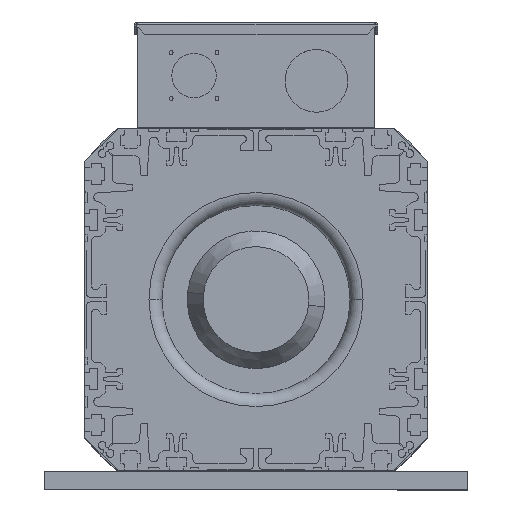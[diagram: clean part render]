
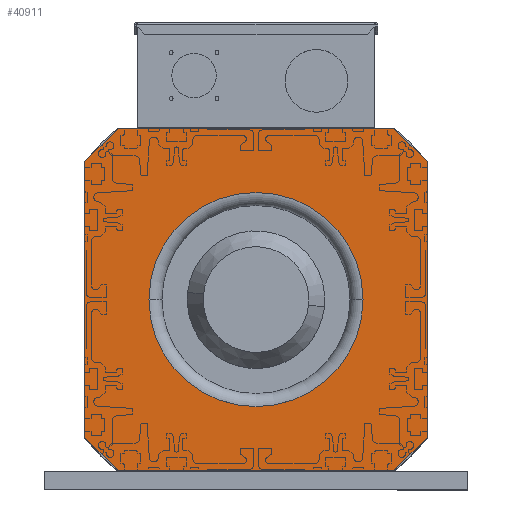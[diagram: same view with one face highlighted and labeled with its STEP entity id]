
A CAD part, top view. The second image highlights one B-rep face of the part: STEP entity #40911.
In plain terms, the highlighted planar face has unit normal (0, 0, 1) as drawn and (-1, 0, 0) by its records, which use the part's own axes.
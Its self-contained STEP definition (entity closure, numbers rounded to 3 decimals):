
#1656 = CARTESIAN_POINT ( 'NONE',  ( 0., 112., 90. ) ) ;
#2002 = DIRECTION ( 'NONE',  ( 1., 0., 0. ) ) ;
#2411 = ORIENTED_EDGE ( 'NONE', *, *, #13039, .F. ) ;
#3742 = DIRECTION ( 'NONE',  ( 0., -0.707, -0.707 ) ) ;
#3843 = CARTESIAN_POINT ( 'NONE',  ( 0., 155., 112. ) ) ;
#6237 = VERTEX_POINT ( 'NONE', #54505 ) ;
#6661 = LINE ( 'NONE', #33599, #35673 ) ;
#7082 = DIRECTION ( 'NONE',  ( 0., 0.707, -0.707 ) ) ;
#7123 = LINE ( 'NONE', #47308, #19832 ) ;
#7255 = EDGE_CURVE ( 'NONE', #29634, #80907, #41921, .T. ) ;
#8041 = EDGE_CURVE ( 'NONE', #41250, #74577, #6661, .T. ) ;
#8053 = ORIENTED_EDGE ( 'NONE', *, *, #66468, .F. ) ;
#8428 = EDGE_LOOP ( 'NONE', ( #60539, #41059, #8544, #16272, #72964, #77427, #2411, #53216 ) ) ;
#8544 = ORIENTED_EDGE ( 'NONE', *, *, #7255, .F. ) ;
#8805 = DIRECTION ( 'NONE',  ( 0., 0., 1. ) ) ;
#10592 = ORIENTED_EDGE ( 'NONE', *, *, #80753, .F. ) ;
#10774 = CARTESIAN_POINT ( 'NONE',  ( 0., 112., -90. ) ) ;
#10907 = DIRECTION ( 'NONE',  ( 0., -1., 0. ) ) ;
#12728 = AXIS2_PLACEMENT_3D ( 'NONE', #73255, #45442, #18969 ) ;
#13039 = EDGE_CURVE ( 'NONE', #31645, #41250, #53699, .T. ) ;
#15589 = VERTEX_POINT ( 'NONE', #77169 ) ;
#15892 = VECTOR ( 'NONE', #8805, 1000. ) ;
#16272 = ORIENTED_EDGE ( 'NONE', *, *, #16275, .F. ) ;
#16275 = EDGE_CURVE ( 'NONE', #75128, #29634, #7123, .T. ) ;
#18969 = DIRECTION ( 'NONE',  ( 0., 0., 1. ) ) ;
#19832 = VECTOR ( 'NONE', #80837, 1000. ) ;
#21825 = LINE ( 'NONE', #61540, #54231 ) ;
#25842 = LINE ( 'NONE', #64248, #63587 ) ;
#27679 = VECTOR ( 'NONE', #72273, 1000. ) ;
#27683 = CARTESIAN_POINT ( 'NONE',  ( 0., 155., 0. ) ) ;
#29212 = LINE ( 'NONE', #36238, #49308 ) ;
#29634 = VERTEX_POINT ( 'NONE', #10774 ) ;
#30411 = DIRECTION ( 'NONE',  ( -1., 0., 0. ) ) ;
#31425 = AXIS2_PLACEMENT_3D ( 'NONE', #44481, #30411, #36576 ) ;
#31645 = VERTEX_POINT ( 'NONE', #45058 ) ;
#33599 = CARTESIAN_POINT ( 'NONE',  ( 0., -90., -112. ) ) ;
#34356 = VECTOR ( 'NONE', #10907, 1000. ) ;
#34867 = CARTESIAN_POINT ( 'NONE',  ( 0., 112., 0. ) ) ;
#35673 = VECTOR ( 'NONE', #7082, 1000. ) ;
#36238 = CARTESIAN_POINT ( 'NONE',  ( 0., 155., -112. ) ) ;
#36576 = DIRECTION ( 'NONE',  ( 0., 0., 1. ) ) ;
#40911 = ADVANCED_FACE ( 'NONE', ( #76194, #48825 ), #56342, .F. ) ;
#41059 = ORIENTED_EDGE ( 'NONE', *, *, #87330, .F. ) ;
#41250 = VERTEX_POINT ( 'NONE', #57694 ) ;
#41921 = LINE ( 'NONE', #34867, #15892 ) ;
#43006 = VERTEX_POINT ( 'NONE', #71622 ) ;
#43874 = EDGE_LOOP ( 'NONE', ( #8053, #10592 ) ) ;
#44405 = EDGE_CURVE ( 'NONE', #74577, #75128, #29212, .T. ) ;
#44481 = CARTESIAN_POINT ( 'NONE',  ( 0., 0., 0. ) ) ;
#44889 = LINE ( 'NONE', #3843, #34356 ) ;
#45058 = CARTESIAN_POINT ( 'NONE',  ( 0., -112., 90. ) ) ;
#45442 = DIRECTION ( 'NONE',  ( -1., 0., 0. ) ) ;
#46013 = CARTESIAN_POINT ( 'NONE',  ( 0., 90., -112. ) ) ;
#47308 = CARTESIAN_POINT ( 'NONE',  ( 0., 112., -90. ) ) ;
#48825 = FACE_OUTER_BOUND ( 'NONE', #8428, .T. ) ;
#49308 = VECTOR ( 'NONE', #63168, 1000. ) ;
#53216 = ORIENTED_EDGE ( 'NONE', *, *, #81656, .F. ) ;
#53699 = LINE ( 'NONE', #80611, #27679 ) ;
#54231 = VECTOR ( 'NONE', #82703, 1000. ) ;
#54505 = CARTESIAN_POINT ( 'NONE',  ( 0., -90., 112. ) ) ;
#56342 = PLANE ( 'NONE',  #72961 ) ;
#56735 = EDGE_CURVE ( 'NONE', #15589, #6237, #44889, .T. ) ;
#57694 = CARTESIAN_POINT ( 'NONE',  ( 0., -112., -90. ) ) ;
#58511 = CARTESIAN_POINT ( 'NONE',  ( 0., -90., -112. ) ) ;
#60539 = ORIENTED_EDGE ( 'NONE', *, *, #56735, .F. ) ;
#61540 = CARTESIAN_POINT ( 'NONE',  ( 0., 90., 112. ) ) ;
#63168 = DIRECTION ( 'NONE',  ( 0., 1., 0. ) ) ;
#63587 = VECTOR ( 'NONE', #3742, 1000. ) ;
#64248 = CARTESIAN_POINT ( 'NONE',  ( 0., -112., 90. ) ) ;
#65626 = CARTESIAN_POINT ( 'NONE',  ( 0., 0., -70. ) ) ;
#65692 = VERTEX_POINT ( 'NONE', #65626 ) ;
#66468 = EDGE_CURVE ( 'NONE', #43006, #65692, #77962, .T. ) ;
#71622 = CARTESIAN_POINT ( 'NONE',  ( 0., 0., 70. ) ) ;
#72273 = DIRECTION ( 'NONE',  ( 0., 0., -1. ) ) ;
#72961 = AXIS2_PLACEMENT_3D ( 'NONE', #27683, #2002, #75753 ) ;
#72964 = ORIENTED_EDGE ( 'NONE', *, *, #44405, .F. ) ;
#73255 = CARTESIAN_POINT ( 'NONE',  ( 0., 0., 0. ) ) ;
#74577 = VERTEX_POINT ( 'NONE', #58511 ) ;
#75128 = VERTEX_POINT ( 'NONE', #46013 ) ;
#75753 = DIRECTION ( 'NONE',  ( 0., 0., -1. ) ) ;
#76194 = FACE_BOUND ( 'NONE', #43874, .T. ) ;
#77169 = CARTESIAN_POINT ( 'NONE',  ( 0., 90., 112. ) ) ;
#77427 = ORIENTED_EDGE ( 'NONE', *, *, #8041, .F. ) ;
#77962 = CIRCLE ( 'NONE', #31425, 70. ) ;
#80611 = CARTESIAN_POINT ( 'NONE',  ( 0., -112., 0. ) ) ;
#80753 = EDGE_CURVE ( 'NONE', #65692, #43006, #81766, .T. ) ;
#80837 = DIRECTION ( 'NONE',  ( 0., 0.707, 0.707 ) ) ;
#80907 = VERTEX_POINT ( 'NONE', #1656 ) ;
#81656 = EDGE_CURVE ( 'NONE', #6237, #31645, #25842, .T. ) ;
#81766 = CIRCLE ( 'NONE', #12728, 70. ) ;
#82703 = DIRECTION ( 'NONE',  ( 0., -0.707, 0.707 ) ) ;
#87330 = EDGE_CURVE ( 'NONE', #80907, #15589, #21825, .T. ) ;
